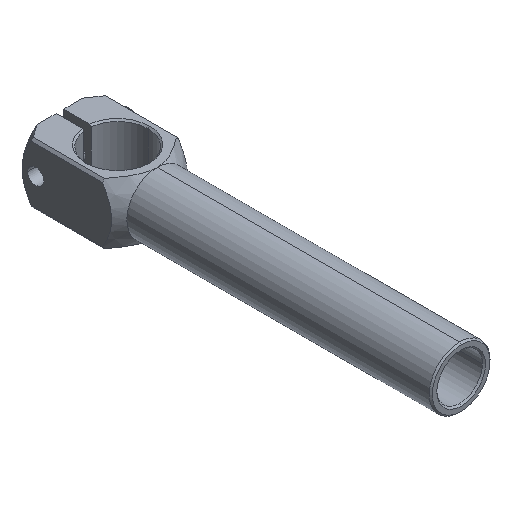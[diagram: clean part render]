
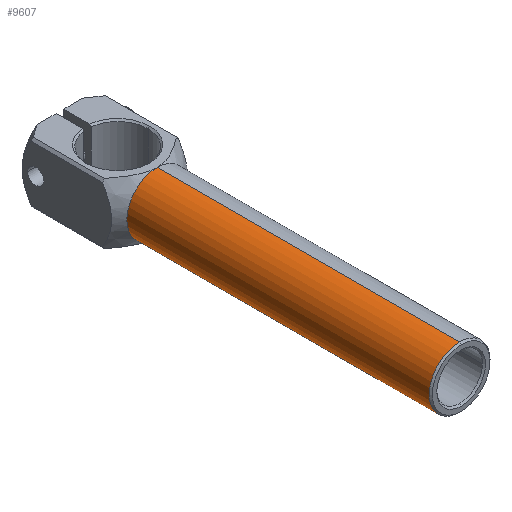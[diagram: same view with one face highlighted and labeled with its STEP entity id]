
A CAD part, isometric view. The second image highlights one B-rep face of the part: STEP entity #9607.
In plain terms, the highlighted cylindrical face has radius 10 mm (diameter 20 mm), a partial arc.
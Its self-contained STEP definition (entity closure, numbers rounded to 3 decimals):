
#298 = CARTESIAN_POINT ( 'NONE',  ( 104.565, -57.35, 0. ) ) ;
#1094 = AXIS2_PLACEMENT_3D ( 'NONE', #298, #6995, #1283 ) ;
#1264 = DIRECTION ( 'NONE',  ( 0., -1., 0. ) ) ;
#1283 = DIRECTION ( 'NONE',  ( 0., 0., -1. ) ) ;
#1358 = DIRECTION ( 'NONE',  ( 0., 0., -1. ) ) ;
#1991 = CARTESIAN_POINT ( 'NONE',  ( 104.565, 42.15, 0. ) ) ;
#2284 = ORIENTED_EDGE ( 'NONE', *, *, #4774, .F. ) ;
#2308 = ORIENTED_EDGE ( 'NONE', *, *, #8941, .F. ) ;
#2382 = VERTEX_POINT ( 'NONE', #6876 ) ;
#2869 = VERTEX_POINT ( 'NONE', #5709 ) ;
#2883 = LINE ( 'NONE', #6609, #5446 ) ;
#2971 = DIRECTION ( 'NONE',  ( 0., 0., 1. ) ) ;
#3116 = AXIS2_PLACEMENT_3D ( 'NONE', #7076, #8004, #1358 ) ;
#3502 = CIRCLE ( 'NONE', #1094, 10. ) ;
#3705 = EDGE_CURVE ( 'NONE', #2869, #4974, #7161, .T. ) ;
#4702 = CIRCLE ( 'NONE', #10126, 10. ) ;
#4774 = EDGE_CURVE ( 'NONE', #2382, #4974, #3502, .T. ) ;
#4951 = EDGE_LOOP ( 'NONE', ( #2308, #6000, #9326, #2284 ) ) ;
#4974 = VERTEX_POINT ( 'NONE', #9526 ) ;
#5446 = VECTOR ( 'NONE', #12404, 1000. ) ;
#5709 = CARTESIAN_POINT ( 'NONE',  ( 104.565, 42.15, -10. ) ) ;
#6000 = ORIENTED_EDGE ( 'NONE', *, *, #9477, .T. ) ;
#6609 = CARTESIAN_POINT ( 'NONE',  ( 104.565, 42.15, 10. ) ) ;
#6876 = CARTESIAN_POINT ( 'NONE',  ( 104.565, -57.35, 10. ) ) ;
#6995 = DIRECTION ( 'NONE',  ( 0., -1., 0. ) ) ;
#7076 = CARTESIAN_POINT ( 'NONE',  ( 104.565, 42.15, 0. ) ) ;
#7161 = LINE ( 'NONE', #10846, #11685 ) ;
#8004 = DIRECTION ( 'NONE',  ( 0., -1., 0. ) ) ;
#8470 = FACE_OUTER_BOUND ( 'NONE', #4951, .T. ) ;
#8787 = DIRECTION ( 'NONE',  ( 0., -1., 0. ) ) ;
#8941 = EDGE_CURVE ( 'NONE', #11965, #2382, #2883, .T. ) ;
#9326 = ORIENTED_EDGE ( 'NONE', *, *, #3705, .T. ) ;
#9477 = EDGE_CURVE ( 'NONE', #11965, #2869, #4702, .T. ) ;
#9526 = CARTESIAN_POINT ( 'NONE',  ( 104.565, -57.35, -10. ) ) ;
#9607 = ADVANCED_FACE ( 'NONE', ( #8470 ), #12379, .T. ) ;
#10126 = AXIS2_PLACEMENT_3D ( 'NONE', #1991, #8787, #2971 ) ;
#10788 = CARTESIAN_POINT ( 'NONE',  ( 104.565, 42.15, 10. ) ) ;
#10846 = CARTESIAN_POINT ( 'NONE',  ( 104.565, 42.15, -10. ) ) ;
#11685 = VECTOR ( 'NONE', #1264, 1000. ) ;
#11965 = VERTEX_POINT ( 'NONE', #10788 ) ;
#12379 = CYLINDRICAL_SURFACE ( 'NONE', #3116, 10. ) ;
#12404 = DIRECTION ( 'NONE',  ( 0., -1., 0. ) ) ;
